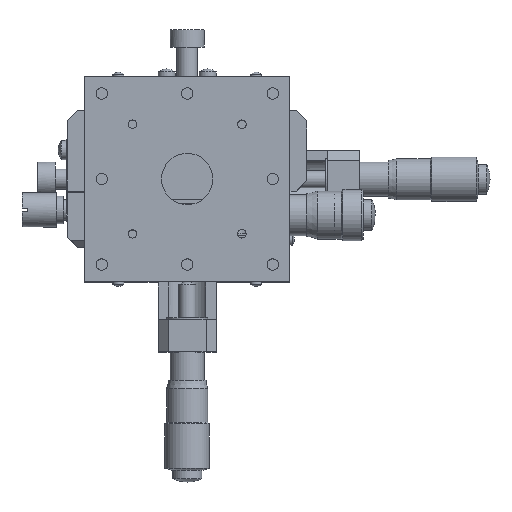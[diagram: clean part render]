
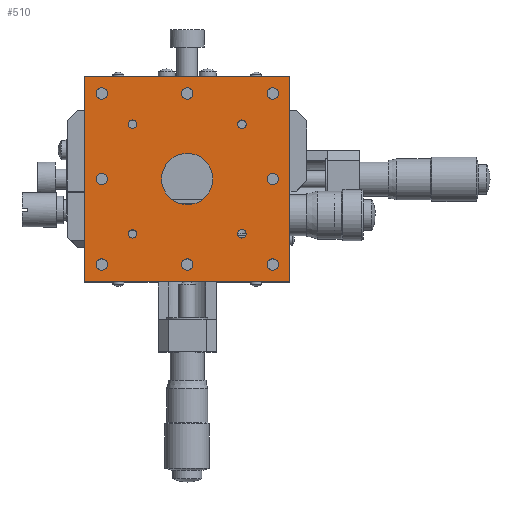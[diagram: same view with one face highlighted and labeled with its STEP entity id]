
A CAD part, top view. The second image highlights one B-rep face of the part: STEP entity #510.
In plain terms, the highlighted planar face has unit normal (0, 0, 1).
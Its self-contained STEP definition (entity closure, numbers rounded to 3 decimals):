
#510 = ADVANCED_FACE( '', ( #1057, #1058, #1059, #1060, #1061, #1062, #1063, #1064, #1065, #1066, #1067, #1068, #1069, #1070 ), #1071, .T. );
#1057 = FACE_OUTER_BOUND( '', #2304, .T. );
#1058 = FACE_BOUND( '', #2305, .T. );
#1059 = FACE_BOUND( '', #2306, .T. );
#1060 = FACE_BOUND( '', #2307, .T. );
#1061 = FACE_BOUND( '', #2308, .T. );
#1062 = FACE_BOUND( '', #2309, .T. );
#1063 = FACE_BOUND( '', #2310, .T. );
#1064 = FACE_BOUND( '', #2311, .T. );
#1065 = FACE_BOUND( '', #2312, .T. );
#1066 = FACE_BOUND( '', #2313, .T. );
#1067 = FACE_BOUND( '', #2314, .T. );
#1068 = FACE_BOUND( '', #2315, .T. );
#1069 = FACE_BOUND( '', #2316, .T. );
#1070 = FACE_BOUND( '', #2317, .T. );
#1071 = PLANE( '', #2318 );
#2304 = EDGE_LOOP( '', ( #3867, #3868, #3869, #3870 ) );
#2305 = EDGE_LOOP( '', ( #3871 ) );
#2306 = EDGE_LOOP( '', ( #3872 ) );
#2307 = EDGE_LOOP( '', ( #3873 ) );
#2308 = EDGE_LOOP( '', ( #3874 ) );
#2309 = EDGE_LOOP( '', ( #3875 ) );
#2310 = EDGE_LOOP( '', ( #3876 ) );
#2311 = EDGE_LOOP( '', ( #3877 ) );
#2312 = EDGE_LOOP( '', ( #3878 ) );
#2313 = EDGE_LOOP( '', ( #3879 ) );
#2314 = EDGE_LOOP( '', ( #3880 ) );
#2315 = EDGE_LOOP( '', ( #3881 ) );
#2316 = EDGE_LOOP( '', ( #3882 ) );
#2317 = EDGE_LOOP( '', ( #3883 ) );
#2318 = AXIS2_PLACEMENT_3D( '', #3884, #3885, #3886 );
#3867 = ORIENTED_EDGE( '', *, *, #6847, .F. );
#3868 = ORIENTED_EDGE( '', *, *, #6891, .F. );
#3869 = ORIENTED_EDGE( '', *, *, #6910, .F. );
#3870 = ORIENTED_EDGE( '', *, *, #6852, .F. );
#3871 = ORIENTED_EDGE( '', *, *, #6948, .T. );
#3872 = ORIENTED_EDGE( '', *, *, #6949, .T. );
#3873 = ORIENTED_EDGE( '', *, *, #6950, .T. );
#3874 = ORIENTED_EDGE( '', *, *, #6951, .T. );
#3875 = ORIENTED_EDGE( '', *, *, #6905, .T. );
#3876 = ORIENTED_EDGE( '', *, *, #6952, .T. );
#3877 = ORIENTED_EDGE( '', *, *, #6953, .T. );
#3878 = ORIENTED_EDGE( '', *, *, #6954, .T. );
#3879 = ORIENTED_EDGE( '', *, *, #6955, .T. );
#3880 = ORIENTED_EDGE( '', *, *, #6956, .T. );
#3881 = ORIENTED_EDGE( '', *, *, #6957, .T. );
#3882 = ORIENTED_EDGE( '', *, *, #6875, .T. );
#3883 = ORIENTED_EDGE( '', *, *, #6870, .T. );
#3884 = CARTESIAN_POINT( '', ( 0., 0., 62. ) );
#3885 = DIRECTION( '', ( 0., 0., 1. ) );
#3886 = DIRECTION( '', ( 1., 0., 0. ) );
#6847 = EDGE_CURVE( '', #7856, #7858, #7859, .T. );
#6852 = EDGE_CURVE( '', #7858, #7867, #7868, .T. );
#6870 = EDGE_CURVE( '', #7900, #7900, #7901, .F. );
#6875 = EDGE_CURVE( '', #7909, #7909, #7910, .F. );
#6891 = EDGE_CURVE( '', #7938, #7856, #7940, .T. );
#6905 = EDGE_CURVE( '', #7962, #7962, #7963, .F. );
#6910 = EDGE_CURVE( '', #7867, #7938, #7971, .T. );
#6948 = EDGE_CURVE( '', #8025, #8025, #8026, .F. );
#6949 = EDGE_CURVE( '', #8027, #8027, #8028, .F. );
#6950 = EDGE_CURVE( '', #8029, #8029, #8030, .F. );
#6951 = EDGE_CURVE( '', #8031, #8031, #8032, .F. );
#6952 = EDGE_CURVE( '', #8033, #8033, #8034, .F. );
#6953 = EDGE_CURVE( '', #8035, #8035, #8036, .F. );
#6954 = EDGE_CURVE( '', #8037, #8037, #8038, .F. );
#6955 = EDGE_CURVE( '', #8039, #8039, #8040, .F. );
#6956 = EDGE_CURVE( '', #8041, #8041, #8042, .F. );
#6957 = EDGE_CURVE( '', #8043, #8043, #8044, .F. );
#7856 = VERTEX_POINT( '', #9642 );
#7858 = VERTEX_POINT( '', #9645 );
#7859 = LINE( '', #9646, #9647 );
#7867 = VERTEX_POINT( '', #9659 );
#7868 = LINE( '', #9660, #9661 );
#7900 = VERTEX_POINT( '', #9708 );
#7901 = CIRCLE( '', #9709, 1.65 );
#7909 = VERTEX_POINT( '', #9720 );
#7910 = CIRCLE( '', #9721, 1.65 );
#7938 = VERTEX_POINT( '', #9759 );
#7940 = LINE( '', #9762, #9763 );
#7962 = VERTEX_POINT( '', #9888 );
#7963 = CIRCLE( '', #9889, 1.25 );
#7971 = LINE( '', #9900, #9901 );
#8025 = VERTEX_POINT( '', #9984 );
#8026 = CIRCLE( '', #9985, 7.5 );
#8027 = VERTEX_POINT( '', #9986 );
#8028 = CIRCLE( '', #9987, 1.25 );
#8029 = VERTEX_POINT( '', #9988 );
#8030 = CIRCLE( '', #9989, 1.25 );
#8031 = VERTEX_POINT( '', #9990 );
#8032 = CIRCLE( '', #9991, 1.25 );
#8033 = VERTEX_POINT( '', #9992 );
#8034 = CIRCLE( '', #9993, 1.65 );
#8035 = VERTEX_POINT( '', #9994 );
#8036 = CIRCLE( '', #9995, 1.65 );
#8037 = VERTEX_POINT( '', #9996 );
#8038 = CIRCLE( '', #9997, 1.65 );
#8039 = VERTEX_POINT( '', #9998 );
#8040 = CIRCLE( '', #9999, 1.65 );
#8041 = VERTEX_POINT( '', #10000 );
#8042 = CIRCLE( '', #10001, 1.65 );
#8043 = VERTEX_POINT( '', #10002 );
#8044 = CIRCLE( '', #10003, 1.65 );
#9642 = CARTESIAN_POINT( '', ( 30., -30., 62. ) );
#9645 = CARTESIAN_POINT( '', ( -30., -30., 62. ) );
#9646 = CARTESIAN_POINT( '', ( 0., -30., 62. ) );
#9647 = VECTOR( '', #11993, 1000. );
#9659 = CARTESIAN_POINT( '', ( -30., 30., 62. ) );
#9660 = CARTESIAN_POINT( '', ( -30., 0., 62. ) );
#9661 = VECTOR( '', #11998, 1000. );
#9708 = CARTESIAN_POINT( '', ( 25., -26.65, 62. ) );
#9709 = AXIS2_PLACEMENT_3D( '', #12020, #12021, #12022 );
#9720 = CARTESIAN_POINT( '', ( 25., -1.65, 62. ) );
#9721 = AXIS2_PLACEMENT_3D( '', #12029, #12030, #12031 );
#9759 = CARTESIAN_POINT( '', ( 30., 30., 62. ) );
#9762 = CARTESIAN_POINT( '', ( 30., 0., 62. ) );
#9763 = VECTOR( '', #12055, 1000. );
#9888 = CARTESIAN_POINT( '', ( 16., -17.25, 62. ) );
#9889 = AXIS2_PLACEMENT_3D( '', #12079, #12080, #12081 );
#9900 = CARTESIAN_POINT( '', ( 0., 30., 62. ) );
#9901 = VECTOR( '', #12088, 1000. );
#9984 = CARTESIAN_POINT( '', ( 0., -7.5, 62. ) );
#9985 = AXIS2_PLACEMENT_3D( '', #12142, #12143, #12144 );
#9986 = CARTESIAN_POINT( '', ( 16., 14.75, 62. ) );
#9987 = AXIS2_PLACEMENT_3D( '', #12145, #12146, #12147 );
#9988 = CARTESIAN_POINT( '', ( -16., 14.75, 62. ) );
#9989 = AXIS2_PLACEMENT_3D( '', #12148, #12149, #12150 );
#9990 = CARTESIAN_POINT( '', ( -16., -17.25, 62. ) );
#9991 = AXIS2_PLACEMENT_3D( '', #12151, #12152, #12153 );
#9992 = CARTESIAN_POINT( '', ( 0., -26.65, 62. ) );
#9993 = AXIS2_PLACEMENT_3D( '', #12154, #12155, #12156 );
#9994 = CARTESIAN_POINT( '', ( -25., -26.65, 62. ) );
#9995 = AXIS2_PLACEMENT_3D( '', #12157, #12158, #12159 );
#9996 = CARTESIAN_POINT( '', ( -25., -1.65, 62. ) );
#9997 = AXIS2_PLACEMENT_3D( '', #12160, #12161, #12162 );
#9998 = CARTESIAN_POINT( '', ( -25., 23.35, 62. ) );
#9999 = AXIS2_PLACEMENT_3D( '', #12163, #12164, #12165 );
#10000 = CARTESIAN_POINT( '', ( 0., 23.35, 62. ) );
#10001 = AXIS2_PLACEMENT_3D( '', #12166, #12167, #12168 );
#10002 = CARTESIAN_POINT( '', ( 25., 23.35, 62. ) );
#10003 = AXIS2_PLACEMENT_3D( '', #12169, #12170, #12171 );
#11993 = DIRECTION( '', ( -1., 0., 0. ) );
#11998 = DIRECTION( '', ( 0., 1., 0. ) );
#12020 = CARTESIAN_POINT( '', ( 25., -25., 62. ) );
#12021 = DIRECTION( '', ( 0., 0., 1. ) );
#12022 = DIRECTION( '', ( 0., -1., 0. ) );
#12029 = CARTESIAN_POINT( '', ( 25., 0., 62. ) );
#12030 = DIRECTION( '', ( 0., 0., 1. ) );
#12031 = DIRECTION( '', ( 0., -1., 0. ) );
#12055 = DIRECTION( '', ( 0., -1., 0. ) );
#12079 = CARTESIAN_POINT( '', ( 16., -16., 62. ) );
#12080 = DIRECTION( '', ( 0., 0., 1. ) );
#12081 = DIRECTION( '', ( 0., -1., 0. ) );
#12088 = DIRECTION( '', ( 1., 0., 0. ) );
#12142 = CARTESIAN_POINT( '', ( 0., 0., 62. ) );
#12143 = DIRECTION( '', ( 0., 0., 1. ) );
#12144 = DIRECTION( '', ( 0., -1., 0. ) );
#12145 = CARTESIAN_POINT( '', ( 16., 16., 62. ) );
#12146 = DIRECTION( '', ( 0., 0., 1. ) );
#12147 = DIRECTION( '', ( 0., -1., 0. ) );
#12148 = CARTESIAN_POINT( '', ( -16., 16., 62. ) );
#12149 = DIRECTION( '', ( 0., 0., 1. ) );
#12150 = DIRECTION( '', ( 0., -1., 0. ) );
#12151 = CARTESIAN_POINT( '', ( -16., -16., 62. ) );
#12152 = DIRECTION( '', ( 0., 0., 1. ) );
#12153 = DIRECTION( '', ( 0., -1., 0. ) );
#12154 = CARTESIAN_POINT( '', ( 0., -25., 62. ) );
#12155 = DIRECTION( '', ( 0., 0., 1. ) );
#12156 = DIRECTION( '', ( 0., -1., 0. ) );
#12157 = CARTESIAN_POINT( '', ( -25., -25., 62. ) );
#12158 = DIRECTION( '', ( 0., 0., 1. ) );
#12159 = DIRECTION( '', ( 0., -1., 0. ) );
#12160 = CARTESIAN_POINT( '', ( -25., 0., 62. ) );
#12161 = DIRECTION( '', ( 0., 0., 1. ) );
#12162 = DIRECTION( '', ( 0., -1., 0. ) );
#12163 = CARTESIAN_POINT( '', ( -25., 25., 62. ) );
#12164 = DIRECTION( '', ( 0., 0., 1. ) );
#12165 = DIRECTION( '', ( 0., -1., 0. ) );
#12166 = CARTESIAN_POINT( '', ( 0., 25., 62. ) );
#12167 = DIRECTION( '', ( 0., 0., 1. ) );
#12168 = DIRECTION( '', ( 0., -1., 0. ) );
#12169 = CARTESIAN_POINT( '', ( 25., 25., 62. ) );
#12170 = DIRECTION( '', ( 0., 0., 1. ) );
#12171 = DIRECTION( '', ( 0., -1., 0. ) );
